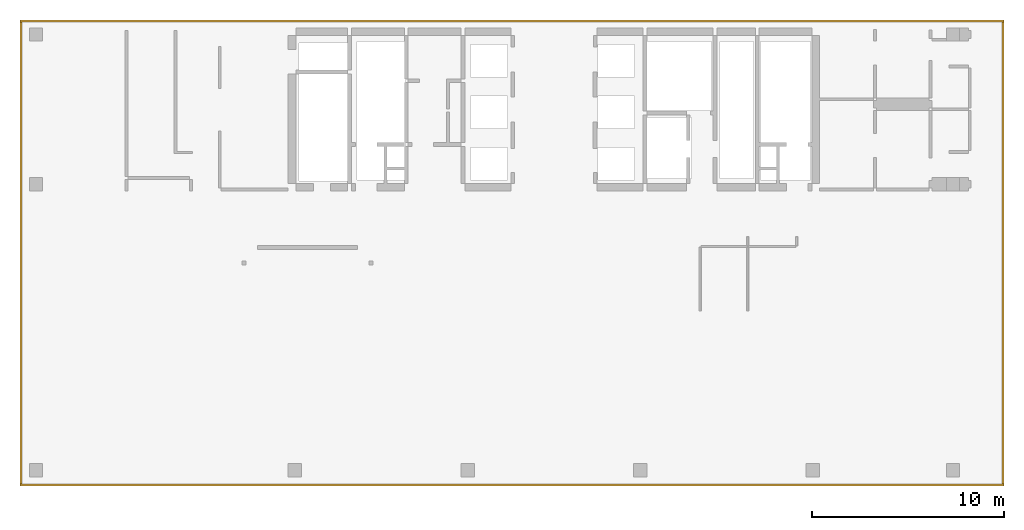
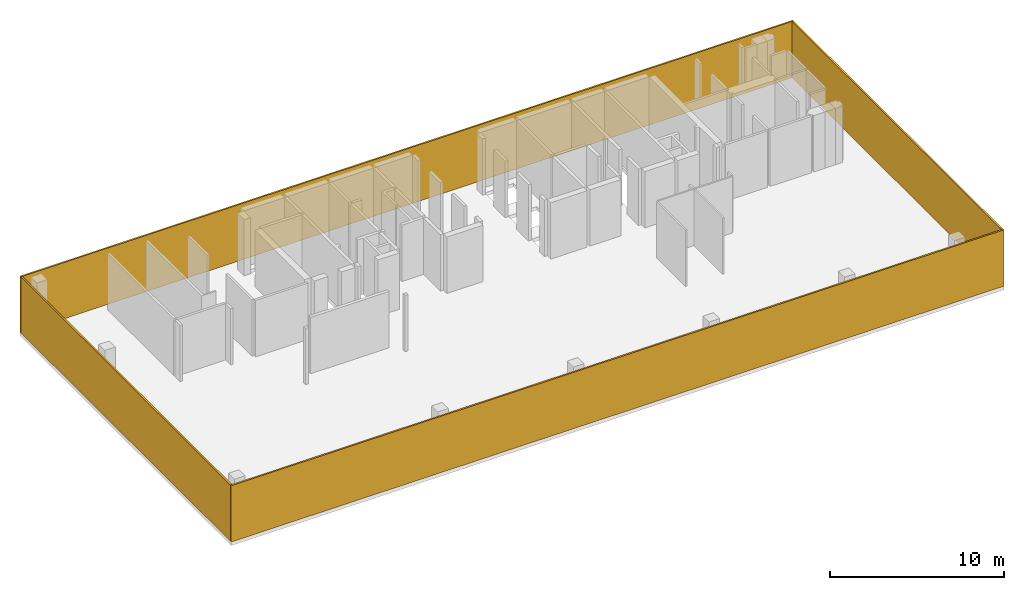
# One storey, part 4 of 4: 4 curtain walls.
"""IFC4 building model written with IfcOpenShell, lengths in millimetres."""

from ifc_helpers import new_model, si_unit, frame, origin, place, context, project, spatial, triangles, element, save


model = new_model("IFC4")

# Units and contexts
model_context = context("Model", 3, precision=0.001, world=origin())
ifc_project = project(units=[si_unit("LENGTHUNIT", "METRE", prefix="MILLI"), si_unit("AREAUNIT", "SQUARE_METRE"), si_unit("VOLUMEUNIT", "CUBIC_METRE")], contexts=[model_context])

# Site, building, storey
site_placement = place(None, origin())
site = spatial("IfcSite", under=ifc_project, at=site_placement, Name="Site", CompositionType="ELEMENT")
building_placement = place(site_placement, origin())
building = spatial("IfcBuilding", under=site, at=building_placement, Name="INNOCEAN", CompositionType="ELEMENT")
storey_placement = place(building_placement, frame((0.0, 0.0, 38600.0)))
storey = spatial("IfcBuildingStorey", under=building, at=storey_placement, Name="F09", CompositionType="ELEMENT", Elevation=38600.0)

# Curtain walls
curtain_wall_1_placement = place(storey_placement, origin())
element("IfcCurtainWall", 1, at=curtain_wall_1_placement, inside=storey, Name="F09_Facade_F09_001", context=model_context, shape_type="Tessellation", body=[
    triangles([(50420.3187250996, 25825.974025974, 0.0), (-846.215139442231, 25825.974025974, 0.0), (-846.215139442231, 25825.974025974, 3950.0), (50420.3187250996, 25825.974025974, 3950.0), (50420.3187250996, 25720.1298701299, 0.0), (50420.3187250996, 25720.1298701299, 3950.0), (-846.215139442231, 25720.1298701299, 0.0), (-846.215139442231, 25720.1298701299, 3950.0)], [[1, 2, 3], [1, 3, 4], [5, 1, 4], [5, 4, 6], [7, 5, 6], [7, 6, 8], [2, 7, 8], [2, 8, 3], [2, 1, 5], [2, 5, 7], [4, 3, 6], [6, 3, 8]], closed=True),
])
curtain_wall_2_placement = place(storey_placement, origin())
element("IfcCurtainWall", 2, at=curtain_wall_2_placement, inside=storey, Name="F09_Facade_F09_002", context=model_context, shape_type="Tessellation", body=[
    triangles([(50420.3187250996, 1658.22510822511, 0.0), (-846.215139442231, 1658.22510822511, 0.0), (-846.215139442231, 1658.22510822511, 3950.0), (50420.3187250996, 1658.22510822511, 3950.0), (50420.3187250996, 1552.38095238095, 0.0), (50420.3187250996, 1552.38095238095, 3950.0), (-846.215139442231, 1552.38095238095, 0.0), (-846.215139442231, 1552.38095238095, 3950.0)], [[1, 2, 3], [1, 3, 4], [5, 1, 4], [5, 4, 6], [7, 5, 6], [7, 6, 8], [2, 7, 8], [2, 8, 3], [2, 1, 5], [2, 5, 7], [4, 3, 6], [6, 3, 8]], closed=True),
])
curtain_wall_3_placement = place(storey_placement, origin())
element("IfcCurtainWall", 3, at=curtain_wall_3_placement, inside=storey, Name="F09_Facade_F09_003", context=model_context, shape_type="Tessellation", body=[
    triangles([(-740.438247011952, 25720.1298701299, 0.0), (-846.215139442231, 25720.1298701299, 0.0), (-846.215139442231, 25720.1298701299, 3950.0), (-740.438247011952, 25720.1298701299, 3950.0), (-740.438247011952, 1658.22510822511, 0.0), (-740.438247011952, 1658.22510822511, 3950.0), (-846.215139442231, 1658.22510822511, 0.0), (-846.215139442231, 1658.22510822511, 3950.0)], [[1, 2, 3], [1, 3, 4], [5, 1, 4], [5, 4, 6], [7, 5, 6], [7, 6, 8], [2, 7, 8], [2, 8, 3], [2, 1, 5], [2, 5, 7], [4, 3, 6], [6, 3, 8]], closed=True),
])
curtain_wall_4_placement = place(storey_placement, origin())
element("IfcCurtainWall", 4, at=curtain_wall_4_placement, inside=storey, Name="F09_Facade_F09_004", context=model_context, shape_type="Tessellation", body=[
    triangles([(50420.3187250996, 25720.1298701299, 0.0), (50314.5418326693, 25720.1298701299, 0.0), (50314.5418326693, 25720.1298701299, 3950.0), (50420.3187250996, 25720.1298701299, 3950.0), (50420.3187250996, 1658.22510822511, 0.0), (50420.3187250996, 1658.22510822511, 3950.0), (50314.5418326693, 1658.22510822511, 0.0), (50314.5418326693, 1658.22510822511, 3950.0)], [[1, 2, 3], [1, 3, 4], [5, 1, 4], [5, 4, 6], [7, 5, 6], [7, 6, 8], [2, 7, 8], [2, 8, 3], [2, 1, 5], [2, 5, 7], [4, 3, 6], [6, 3, 8]], closed=True),
])

save(model, "model.ifc")
